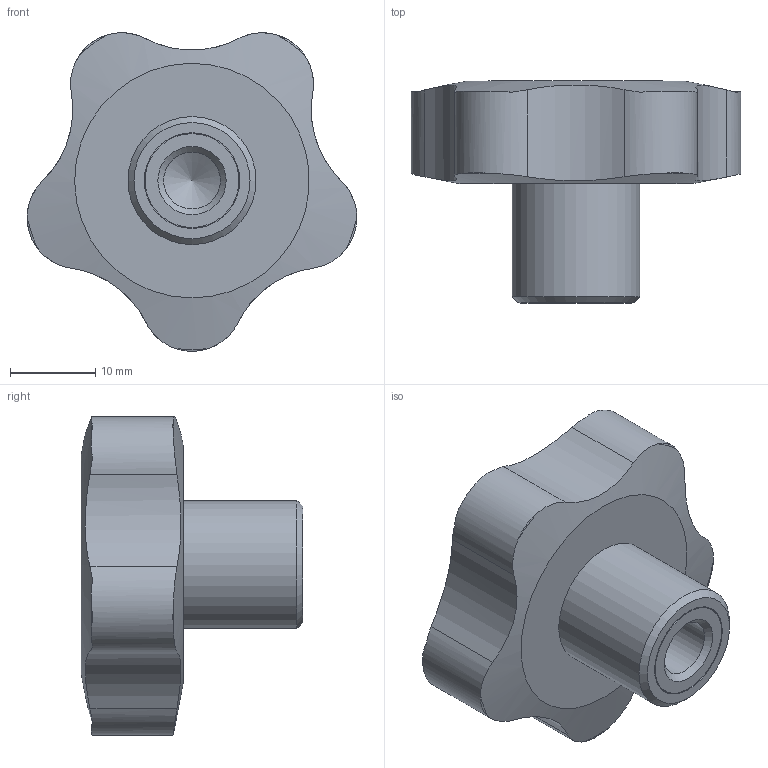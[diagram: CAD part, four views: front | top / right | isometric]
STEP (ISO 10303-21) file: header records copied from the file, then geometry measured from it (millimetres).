
FILE_DESCRIPTION( ( 'STEP AP203' ), '1' );
FILE_NAME( 'C:/Temp/Ganter_Step_05_03_2020/data/2_2/gn_5337_4/gn_5337_v/Star knob chrome-plated GN 5337.4-40-M8-CR.stp', '2020-03-05T12:09:35', ( 'License CC BY-ND 4.0' ), ( 'CADENAS' ), ' ', 'PARTsolutions', ' ' );
FILE_SCHEMA( ( 'CONFIG_CONTROL_DESIGN' ) );
Length unit declared in the file: millimetre
Products named in the file (1): _Star knob chrome-plated GN 5337.4-40-M8-CR
Bounding box: 38.63 x 26 x 37.33 mm (x, y, z)
Volume: 12947.9 mm3; surface area: 4202.9 mm2
Topology: 1 solids, 1 shells, 34 faces, 87 edges, 57 vertices
Faces by surface type: cylinder 14, torus 10, cone 4, plane 4, bspline 1, sphere 1
Full cylindrical faces by diameter (mm): 6.647 x1, 11 x1, 11.2 x1, 15 x1
Entity records: 1351 total; most frequent: CARTESIAN_POINT 610, ORIENTED_EDGE 144, DIRECTION 122, EDGE_CURVE 72, AXIS2_PLACEMENT_3D 56, VERTEX_POINT 54, EDGE_LOOP 46, B_SPLINE_CURVE_WITH_KNOTS 40
